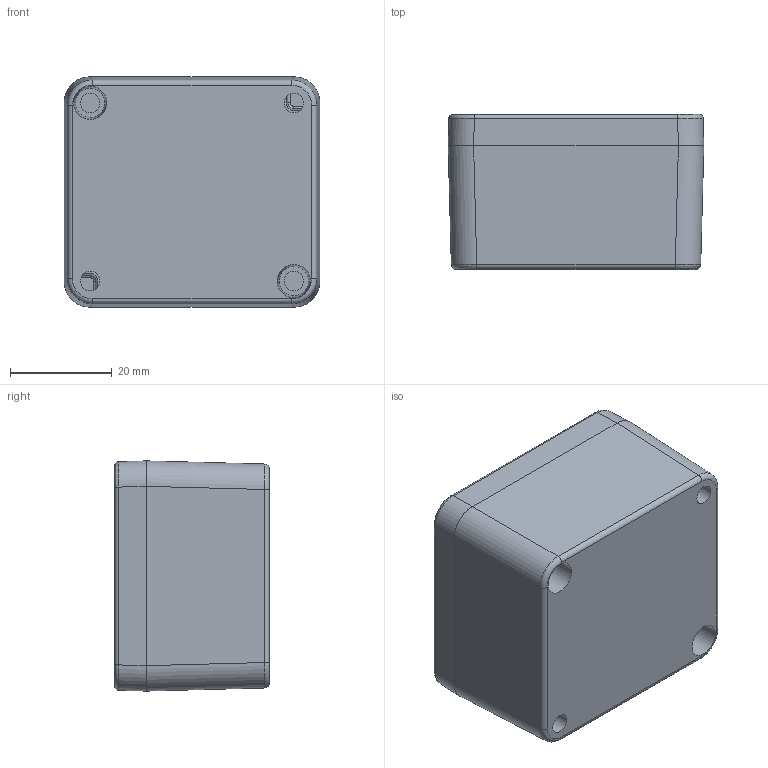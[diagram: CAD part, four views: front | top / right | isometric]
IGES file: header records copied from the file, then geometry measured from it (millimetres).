
Global section: file name: 1590Z060.iam; native system: Autodesk Inventor 2015; preprocessor: unknown; author: MBeerman; date: 20150420.084454; units: millimetre
Bounding box: 50.2 x 30.4 x 45.2 mm (x, y, z)
Volume: 25503.3 mm3; surface area: 23011.1 mm2
Topology: 5 solids, 5 shells, 1164 faces, 2964 edges, 1868 vertices
Faces by surface type: bspline 366, plane 361, revolution 288, cylinder 106, cone 43
Full cylindrical faces by diameter (mm): 3.42 x2, 3.82 x2
